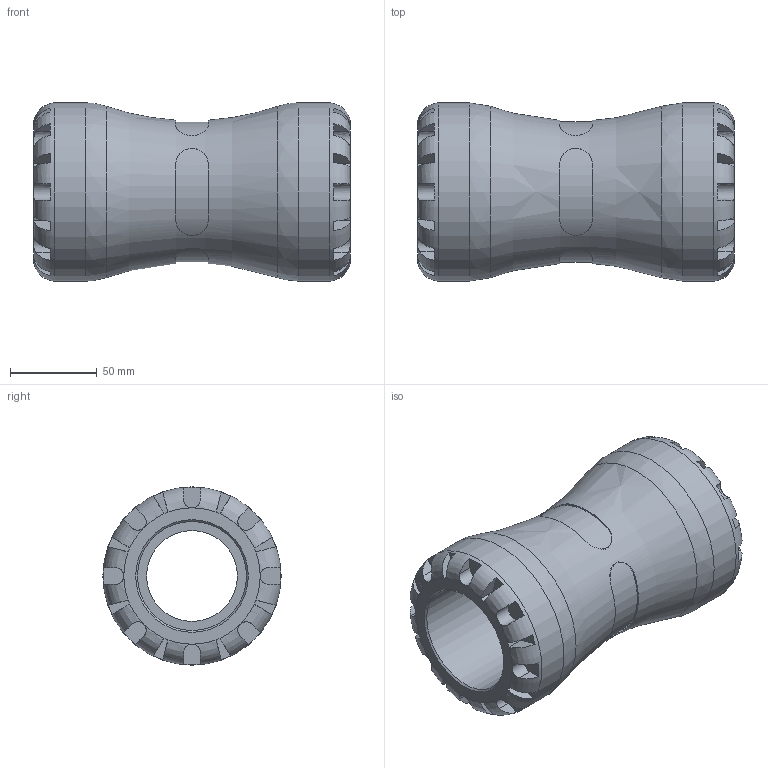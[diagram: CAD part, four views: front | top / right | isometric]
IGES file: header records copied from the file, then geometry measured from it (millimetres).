
Global section: file name: 100100063_190100063.ipt; native system: Autodesk Inventor 2015; preprocessor: unknown; author: KIM; date: 20170117.105928; units: millimetre
Bounding box: 183 x 103 x 103 mm (x, y, z)
Volume: 690887.6 mm3; surface area: 105783.8 mm2
Topology: 1 solids, 1 shells, 164 faces, 427 edges, 270 vertices
Faces by surface type: plane 108, revolution 34, cylinder 22
Full cylindrical faces by diameter (mm): 103 x2
